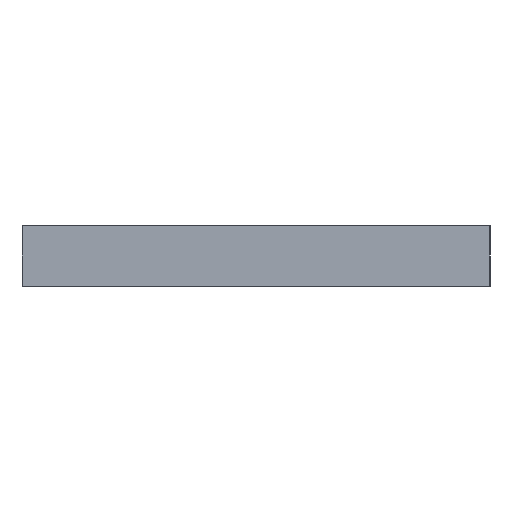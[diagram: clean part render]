
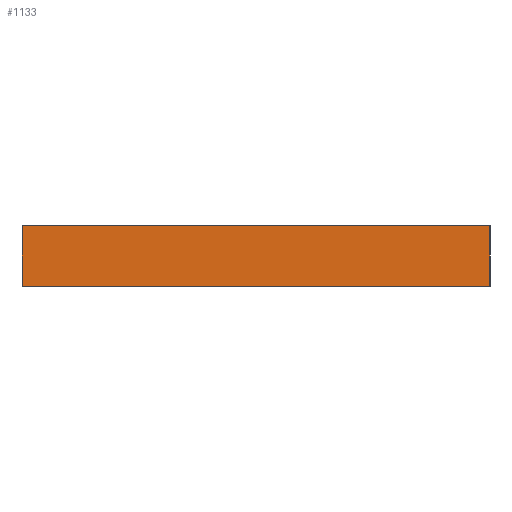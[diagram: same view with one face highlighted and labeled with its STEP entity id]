
A CAD part, left-side view. The second image highlights one B-rep face of the part: STEP entity #1133.
In plain terms, the highlighted planar face has unit normal (-1, 0, 0).
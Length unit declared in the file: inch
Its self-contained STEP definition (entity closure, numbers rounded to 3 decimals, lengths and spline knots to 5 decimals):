
#8 = EDGE_CURVE ( 'NONE', #454, #453, #784, .T. ) ;
#9 = EDGE_CURVE ( 'NONE', #454, #421, #785, .T. ) ;
#30 = EDGE_CURVE ( 'NONE', #453, #458, #809, .T. ) ;
#36 = EDGE_CURVE ( 'NONE', #421, #458, #854, .T. ) ;
#214 = AXIS2_PLACEMENT_3D ( 'NONE', #288, #300, #312 ) ;
#287 = PLANE ( 'NONE',  #214 ) ;
#288 = CARTESIAN_POINT ( 'NONE',  ( 0., 0., 0.345 ) ) ;
#300 = DIRECTION ( 'NONE',  ( 1., 0., 0. ) ) ;
#312 = DIRECTION ( 'NONE',  ( 0., 0., -1. ) ) ;
#421 = VERTEX_POINT ( 'NONE', #1436 ) ;
#453 = VERTEX_POINT ( 'NONE', #1452 ) ;
#454 = VERTEX_POINT ( 'NONE', #1456 ) ;
#458 = VERTEX_POINT ( 'NONE', #1454 ) ;
#607 = EDGE_LOOP ( 'NONE', ( #763, #799, #767, #752 ) ) ;
#752 = ORIENTED_EDGE ( 'NONE', *, *, #9, .T. ) ;
#763 = ORIENTED_EDGE ( 'NONE', *, *, #36, .T. ) ;
#767 = ORIENTED_EDGE ( 'NONE', *, *, #8, .F. ) ;
#783 = VECTOR ( 'NONE', #1149, 39.37008 ) ;
#784 = LINE ( 'NONE', #1146, #783 ) ;
#785 = LINE ( 'NONE', #1157, #786 ) ;
#786 = VECTOR ( 'NONE', #1153, 39.37008 ) ;
#799 = ORIENTED_EDGE ( 'NONE', *, *, #30, .F. ) ;
#809 = LINE ( 'NONE', #1204, #820 ) ;
#812 = VECTOR ( 'NONE', #1238, 39.37008 ) ;
#820 = VECTOR ( 'NONE', #1210, 39.37008 ) ;
#854 = LINE ( 'NONE', #1213, #812 ) ;
#1054 = FACE_OUTER_BOUND ( 'NONE', #607, .T. ) ;
#1133 = ADVANCED_FACE ( 'NONE', ( #1054 ), #287, .F. ) ;
#1146 = CARTESIAN_POINT ( 'NONE',  ( 0., 0., 0.345 ) ) ;
#1149 = DIRECTION ( 'NONE',  ( 0., -1., 0. ) ) ;
#1153 = DIRECTION ( 'NONE',  ( 0., 0., -1. ) ) ;
#1157 = CARTESIAN_POINT ( 'NONE',  ( 0., 2.69, 0.345 ) ) ;
#1204 = CARTESIAN_POINT ( 'NONE',  ( 0., 0., 0.345 ) ) ;
#1210 = DIRECTION ( 'NONE',  ( 0., 0., -1. ) ) ;
#1213 = CARTESIAN_POINT ( 'NONE',  ( 0., 0., 0. ) ) ;
#1238 = DIRECTION ( 'NONE',  ( 0., -1., 0. ) ) ;
#1436 = CARTESIAN_POINT ( 'NONE',  ( 0., 2.69, 0. ) ) ;
#1452 = CARTESIAN_POINT ( 'NONE',  ( 0., 0., 0.345 ) ) ;
#1454 = CARTESIAN_POINT ( 'NONE',  ( 0., 0., 0. ) ) ;
#1456 = CARTESIAN_POINT ( 'NONE',  ( 0., 2.69, 0.345 ) ) ;
